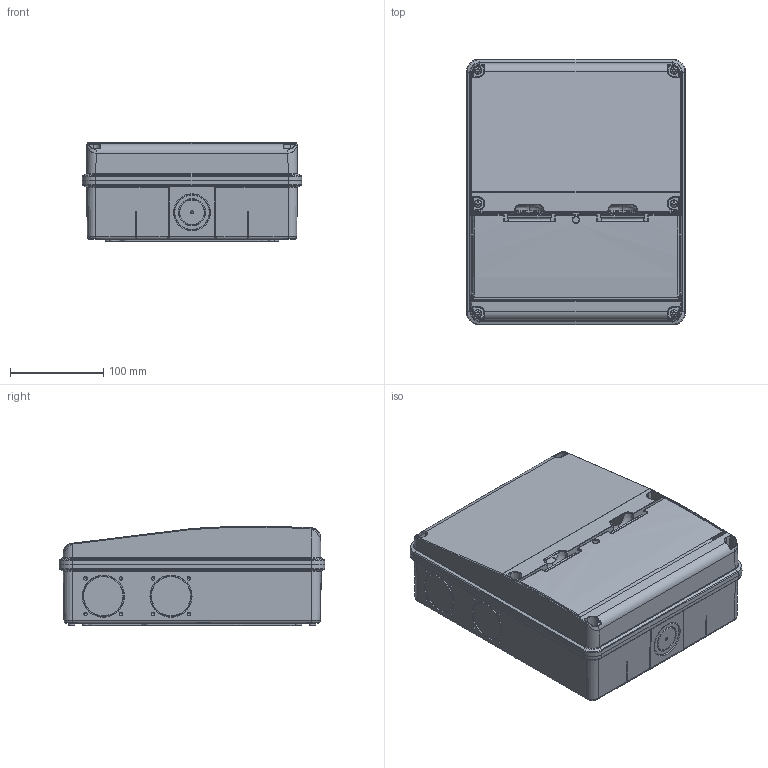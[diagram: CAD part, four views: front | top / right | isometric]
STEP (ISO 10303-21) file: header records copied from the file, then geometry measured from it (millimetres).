
FILE_DESCRIPTION(/* description */ (''),/* implementation_level */ '2;1');
FILE_NAME(/* name */ '4002730.stp',/* time_stamp */ '2017-04-18T21:45:56+02:00',/* author */ (''),/* organization */ (''),/* preprocessor_version */ 'ST-DEVELOPER v16',/* originating_system */ 'SIEMENS PLM Software NX 11.0',/* authorisation */ '');
FILE_SCHEMA (('AUTOMOTIVE_DESIGN { 1 0 10303 214 3 1 1 1 }'));
Length unit declared in the file: millimetre
Products named in the file (1): 4002730_LINKEDEXT_jt
Bounding box: 235 x 285 x 106.5 mm (x, y, z)
Surface area: 265470.4 mm2 (no closed solid volume)
Topology: 0 solids, 62 shells, 596 faces, 2445 edges, 1861 vertices
Faces by surface type: plane 169, cylinder 149, cone 97, torus 93, bspline 80, sphere 8
Entity records: 36642 total; most frequent: CARTESIAN_POINT 13403, DIRECTION 3995, ORIENTED_EDGE 3125, EDGE_CURVE 2315, VERTEX_POINT 1806, AXIS2_PLACEMENT_3D 1563, LINE 869, VECTOR 869
